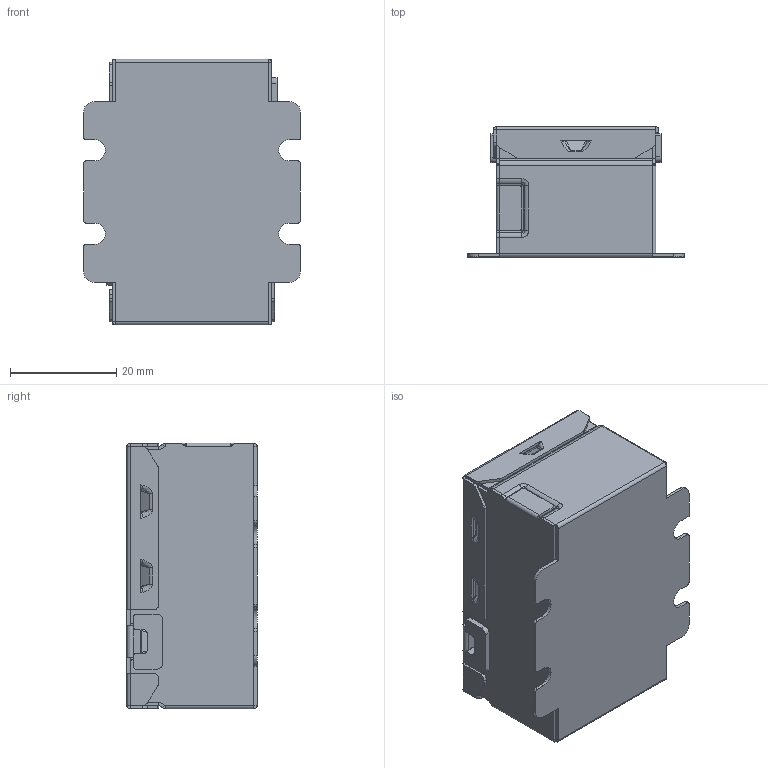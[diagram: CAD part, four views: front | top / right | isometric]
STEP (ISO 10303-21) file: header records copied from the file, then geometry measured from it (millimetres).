
FILE_DESCRIPTION((''),'2;1');
FILE_NAME('14_CASE_ASM','2025-12-19T15:11:18',('Administrator'),(''),'CREO PARAMETRIC BY PTC INC, 2020053','CREO PARAMETRIC BY PTC INC, 2020053','');
FILE_SCHEMA(('CONFIG_CONTROL_DESIGN','SHAPE_APPEARANCE_LAYERS_GROUPS'));
Length unit declared in the file: millimetre
Products named in the file (4): 14_BOTTOM; 14_TOP; SVF-SVG_HUXIANQUAN; 14_CASE_ASM
Assembly tree (5 placements, depth 2):
  14_CASE_ASM
    14_BOTTOM
    14_TOP
    SVF-SVG_HUXIANQUAN  x3
Bounding box: 40.8 x 24.5 x 50 mm (x, y, z)
Volume: 4801.1 mm3; surface area: 16355.1 mm2
Topology: 5 solids, 5 shells, 588 faces, 1442 edges, 864 vertices
Faces by surface type: plane 328, cylinder 208, bspline 44, sphere 8
Entity records: 18156 total; most frequent: CARTESIAN_POINT 5867, ORIENTED_EDGE 2524, DIRECTION 2448, EDGE_CURVE 1262, VECTOR 862, LINE 862, AXIS2_PLACEMENT_3D 793, VERTEX_POINT 744
